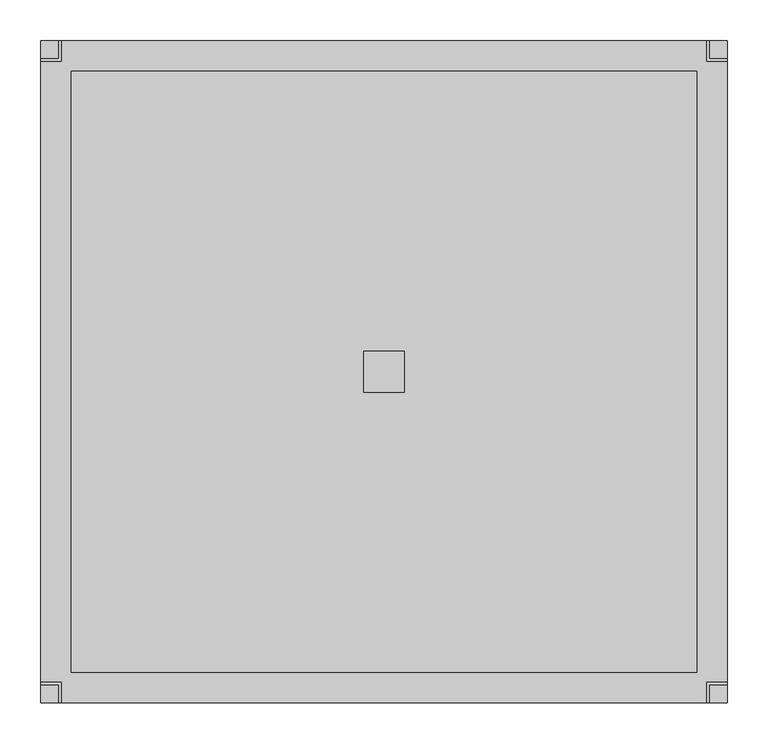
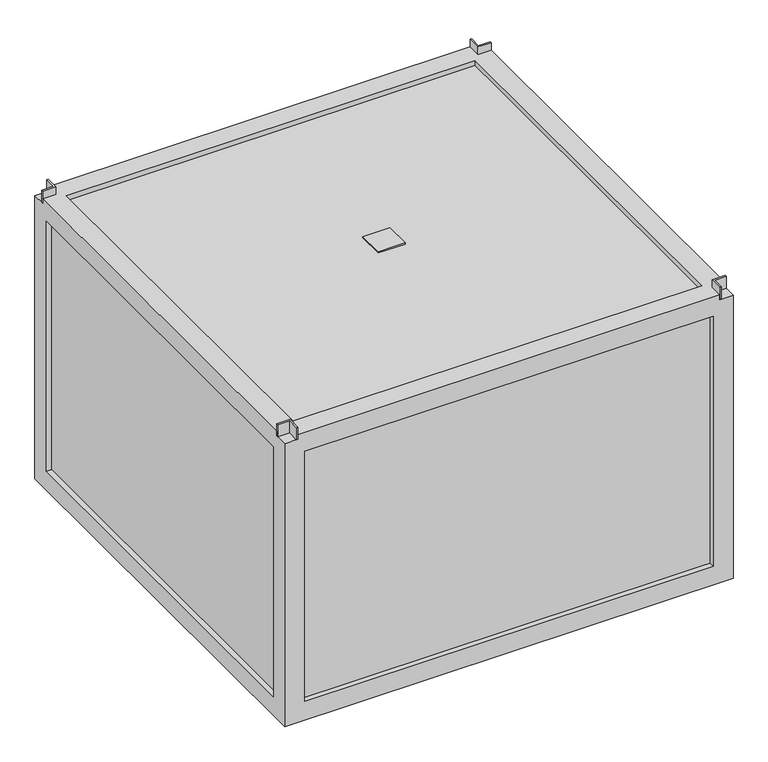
"""IFC4 building model written with IfcOpenShell, lengths in millimetres: proxy geometry, KORF_Вентилятор_UTR_WRH : UTR 60-35 WRH 31.4D."""

from ifc_helpers import new_model, si_unit, frame, origin, place, context, project, spatial, polyline, outline, extrude, faceted_brep, source, transform, mapped, element, save


def mechanical_equipment_0b07e7d4(model_context):
    return source(origin(), model_context, "Body", "SolidModel", [
        extrude(outline(polyline([(395.0, -25.0), (395.0, 25.0), (445.0, 25.0), (445.0, -25.0), (395.0, -25.0)])), frame((0.0, 0.0, 285.0), z_axis=(0.0, 0.0, 1.0), x_axis=(1.0, 0.0, 0.0)), (0.0, 0.0, 1.0), 2.0),
        extrude(outline(polyline([(25.0, 380.0), (0.0, 380.0), (0.0, 383.0), (22.0, 383.0), (22.0, 405.0), (25.0, 405.0), (25.0, 380.0)])), frame((0.0, 0.0, 276.0), z_axis=(0.0, 0.0, 1.0), x_axis=(1.0, 0.0, 0.0)), (0.0, 0.0, 1.0), 24.0),
        extrude(outline(polyline([(815.0, 380.0), (815.0, 405.0), (818.0, 405.0), (818.0, 383.0), (840.0, 383.0), (840.0, 380.0), (815.0, 380.0)])), frame((0.0, 0.0, 276.0), z_axis=(0.0, 0.0, 1.0), x_axis=(1.0, 0.0, 0.0)), (0.0, 0.0, 1.0), 24.0),
        extrude(outline(polyline([(25.0, -380.0), (25.0, -405.0), (22.0, -405.0), (22.0, -383.0), (0.0, -383.0), (0.0, -380.0), (25.0, -380.0)])), frame((0.0, 0.0, 276.0), z_axis=(0.0, 0.0, 1.0), x_axis=(1.0, 0.0, 0.0)), (0.0, 0.0, 1.0), 24.0),
        extrude(outline(polyline([(815.0, -380.0), (840.0, -380.0), (840.0, -383.0), (818.0, -383.0), (818.0, -405.0), (815.0, -405.0), (815.0, -380.0)])), frame((0.0, 0.0, 276.0), z_axis=(0.0, 0.0, 1.0), x_axis=(1.0, 0.0, 0.0)), (0.0, 0.0, 1.0), 24.0),
        extrude(outline(polyline([(830.0, 395.0), (830.0, -395.0), (10.0, -395.0), (10.0, 395.0), (830.0, 395.0)])), frame((0.0, 0.0, -275.0), z_axis=(0.0, 0.0, 1.0), x_axis=(1.0, 0.0, 0.0)), (0.0, 0.0, 1.0), 550.0),
        faceted_brep([(0.0, -404.9999993, -284.9999993), (840.0, -404.9999993, -284.9999993), (839.9999993, -404.9999993, 276.0), (815.0, -404.9999993, 276.0), (815.0, -404.9999993, 285.0), (25.0, -404.9999993, 284.9999993), (25.0, -404.9999993, 276.0), (0.0, -404.9999993, 276.0), (37.5, -404.9999993, -247.4999993), (37.5, -404.9999993, 247.5), (802.4999993, -404.9999993, 247.5), (802.4999993, -404.9999993, -247.4999993), (10.000001, -394.9999993, -274.9999993), (10.000001, -394.9999993, 274.9999993), (829.9999993, -394.9999993, 274.999999), (829.999999, -394.9999993, -274.9999993), (37.5, -394.9999993, 247.5), (37.5, -394.9999993, -247.4999993), (802.4999993, -394.9999993, -247.4999993), (802.4999993, -394.9999993, 247.5), (0.0, -367.4999993, 247.4999993), (10.000001, -367.4999993, 247.4999993), (10.000001, -367.4999993, -247.4999993), (0.0, -367.4999993, -247.4999993), (0.0, 404.9999993, -284.9999993), (840.0, 405.0, -284.9999993), (802.5, -367.5, -284.9999993), (802.5, 367.5, -284.9999993), (37.5, 367.5, -284.9999993), (37.5, -367.5, -284.9999993), (10.000001, 394.9999993, -274.9999993), (829.999999, 394.999999, -274.9999993), (802.5, 367.5, -274.9999993), (802.5, -367.5, -274.9999993), (37.5, -367.5, -274.9999993), (37.5, 367.5, -274.9999993), (10.000001, 367.4999993, -247.4999993), (0.0, 367.4999993, -247.4999993), (0.0, 404.9999993, 276.0), (25.0, 404.9999993, 276.0), (25.0, 404.9999993, 284.9999993), (815.0, 404.9999993, 285.0), (815.0, 404.9999993, 276.0), (839.9999993, 404.9999993, 276.0), (37.5, 404.9999993, 247.5), (37.5, 404.9999993, -247.4999993), (802.4999993, 404.9999993, -247.4999993), (802.4999993, 404.9999993, 247.5), (10.000001, 394.9999993, 274.9999993), (829.9999993, 394.9999993, 274.999999), (37.5, 394.9999993, -247.4999993), (37.5, 394.9999993, 247.5), (802.4999993, 394.9999993, 247.5), (802.4999993, 394.9999993, -247.4999993), (10.000001, 367.4999993, 247.4999993), (0.0, 367.4999993, 247.4999993), (0.0, -380.0, 276.0), (0.0, -380.0, 284.9999993), (0.0, 380.0, 284.9999993), (0.0, 380.0, 276.0), (815.0, -380.0, 284.9999993), (839.9999993, -380.0, 284.9999993), (839.9999993, 380.0, 284.9999993), (815.0, 380.0, 284.9999993), (25.0, 380.0, 284.9999993), (25.0, -380.0, 284.9999993), (802.4999993, 367.4999993, 284.9999993), (802.4999993, -367.4999993, 284.9999993), (37.5000007, -367.4999993, 284.9999993), (37.5, 367.4999993, 284.9999993), (37.5, -367.4999993, 274.9999993), (37.5, 367.4999993, 274.9999993), (802.4999993, -367.4999993, 274.9999993), (802.4999993, 367.4999993, 274.9999993), (839.9999993, 380.0, 276.0), (839.9999993, -380.0, 276.0), (839.9999993, -367.5, -247.5), (839.9999993, -367.5, 247.5), (839.9999993, 367.5, 247.5), (839.9999993, 367.5, -247.5), (829.9999993, -367.5, 247.5), (829.9999993, -367.5, -247.5), (829.9999993, 367.5, -247.4999993), (829.9999993, 367.5, 247.5), (25.0, 380.0, 276.0), (815.0, 380.0, 276.0), (815.0, -380.0, 276.0), (25.0, -380.0, 276.0)], [[[0, 1, 2, 3, 4, 5, 6, 7], [8, 9, 10, 11]], [[12, 13, 14, 15], [16, 17, 18, 19]], [[20, 21, 22, 23]], [[0, 24, 25, 1], [26, 27, 28, 29]], [[30, 12, 15, 31], [32, 33, 34, 35]], [[23, 22, 36, 37]], [[25, 24, 38, 39, 40, 41, 42, 43], [44, 45, 46, 47]], [[48, 30, 31, 49], [50, 51, 52, 53]], [[37, 36, 54, 55]], [[24, 0, 7, 56, 57, 58, 59, 38], [20, 23, 37, 55]], [[5, 4, 60, 61, 62, 63, 41, 40, 64, 58, 57, 65], [66, 67, 68, 69]], [[35, 34, 29, 28]], [[69, 68, 70, 71]], [[16, 9, 8, 17]], [[44, 51, 50, 45]], [[13, 48, 49, 14], [72, 73, 71, 70]], [[12, 30, 48, 13], [22, 21, 54, 36]], [[21, 20, 55, 54]], [[1, 25, 43, 74, 62, 61, 75, 2], [76, 77, 78, 79]], [[14, 49, 31, 15], [80, 81, 82, 83]], [[66, 73, 72, 67]], [[67, 72, 70, 68]], [[9, 16, 19, 10]], [[51, 44, 47, 52]], [[80, 83, 78, 77]], [[73, 66, 69, 71]], [[32, 27, 26, 33]], [[33, 26, 29, 34]], [[27, 32, 35, 28]], [[17, 8, 11, 18]], [[45, 50, 53, 46]], [[76, 79, 82, 81]], [[77, 76, 81, 80]], [[79, 78, 83, 82]], [[11, 10, 19, 18]], [[47, 46, 53, 52]], [[59, 84, 39, 38]], [[42, 85, 74, 43]], [[75, 86, 3, 2]], [[87, 56, 7, 6]], [[84, 59, 58, 64]], [[39, 84, 64, 40]], [[85, 42, 41, 63]], [[74, 85, 63, 62]], [[86, 75, 61, 60]], [[3, 86, 60, 4]], [[56, 87, 65, 57]], [[87, 6, 5, 65]]]),
    ])


if __name__ == "__main__":
    model = new_model("IFC4")
    model_context = context("Model", 3, world=origin())
    ifc_project = project(units=[si_unit("LENGTHUNIT", "METRE", prefix="MILLI")], contexts=[model_context])
    site = spatial("IfcSite", under=ifc_project)
    building = spatial("IfcBuilding", under=site)
    placement = place(None, origin())
    mechanical_equipment_shape = mechanical_equipment_0b07e7d4(model_context)
    element("IfcBuildingElementProxy", 1, Name="KORF_Вентилятор_UTR_WRH : UTR 60-35 WRH 31.4D", ObjectType="KORF_Вентилятор_UTR_WRH : UTR 60-35 WRH 31.4D", at=placement, inside=building, context=model_context, shape_type="MappedRepresentation", body=[
        mapped(mechanical_equipment_shape, transform((0.0, 0.0, 0.0), x_axis=(1.0, 0.0, 0.0), y_axis=(0.0, 1.0, 0.0), z_axis=(0.0, 0.0, 1.0))),
    ])
    save(model, "model.ifc")
